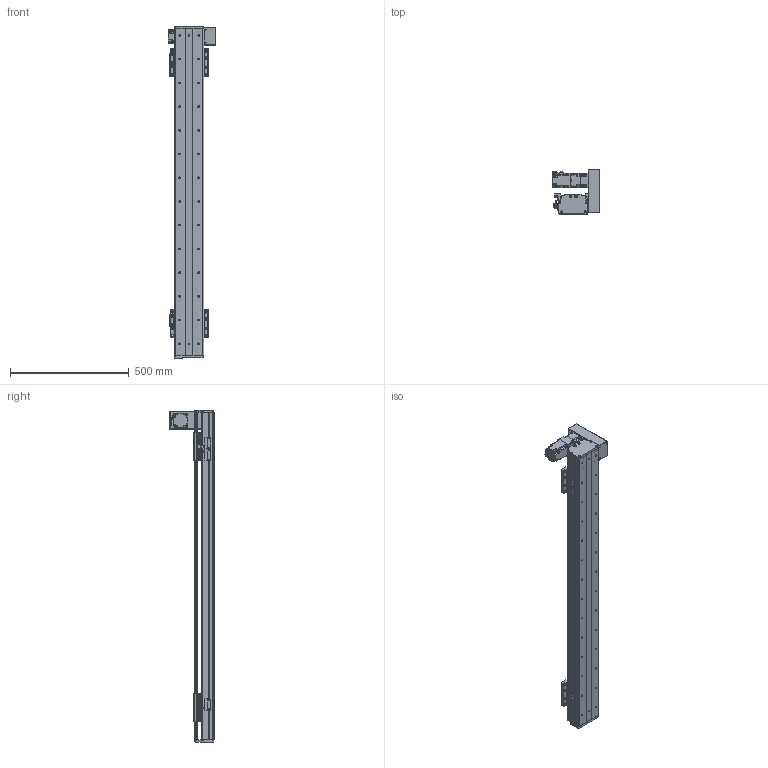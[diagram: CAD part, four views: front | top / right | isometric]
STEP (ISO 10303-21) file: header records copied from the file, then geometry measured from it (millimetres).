
FILE_DESCRIPTION(/* description */ (''),/* implementation_level */ '2;1');
FILE_NAME(/* name */ 'C:\Users\PC\Desktop\3D도면\STEP\DSB125-UR2G-W1100-L.stp',/* time_stamp */ '2018-06-19T16:56:25+09:00',/* author */ ('PC'),/* organization */ (''),/* preprocessor_version */ 'ST-DEVELOPER v16.5',/* originating_system */ 'Autodesk Inventor 2017',/* authorisation */ '');
FILE_SCHEMA (('AUTOMOTIVE_DESIGN { 1 0 10303 214 3 1 1 }'));
Length unit declared in the file: millimetre
Products named in the file (12): DSB125-UL2G-W1100-R_MIR; DSB125-BASE_MIR; DSB125-UP COVER_MIR; DSB125-FRONT COVER_MIR; DSB125-REAR COVER_MIR; hg-kr23__MIR; ab0601-p0401200402_MIR; 13-BELT COVER_MIR; DSR125-SENSOR DOG_MIR; SENSOR BRACKET(EE-SX674A)_MIR; pm-y65_step_MIR; DSB125-TABLE(MSB15S)_MIR
Assembly tree (16 placements, depth 2):
  DSB125-UL2G-W1100-R_MIR
    DSB125-BASE_MIR
    DSB125-UP COVER_MIR
    DSB125-FRONT COVER_MIR
    DSB125-REAR COVER_MIR
    hg-kr23__MIR
    ab0601-p0401200402_MIR
    13-BELT COVER_MIR
    DSR125-SENSOR DOG_MIR
    SENSOR BRACKET(EE-SX674A)_MIR  x3
    pm-y65_step_MIR  x3
    DSB125-TABLE(MSB15S)_MIR  x2
Bounding box: 202.1 x 187 x 1400 mm (x, y, z)
Volume: 5099917.5 mm3; surface area: 1468497 mm2
Topology: 17 solids, 17 shells, 1667 faces, 4520 edges, 2978 vertices
Faces by surface type: plane 903, cylinder 634, cone 118, sphere 8, torus 4
Full cylindrical faces by diameter (mm): 2.459 x20, 3.242 x16, 3.5 x6, 4 x1, 4.134 x16, 4.2 x4, 4.3 x1, 4.5 x50, 4.917 x20, 5 x22, 5.3 x1, 5.5 x4, 5.6 x8, 5.8 x4, 5.9 x8, 6 x4, 6.6 x22, 6.647 x28, 7.5 x32, 8.5 x8, 8.7 x1, 11 x22, 14 x1, 16 x2, 17 x1, 20 x1, 47 x1, 50 x3
Entity records: 36137 total; most frequent: CARTESIAN_POINT 6507, DIRECTION 6138, ORIENTED_EDGE 5490, EDGE_CURVE 2745, AXIS2_PLACEMENT_3D 2257, VERTEX_POINT 1954, EDGE_LOOP 1685, LINE 1624
